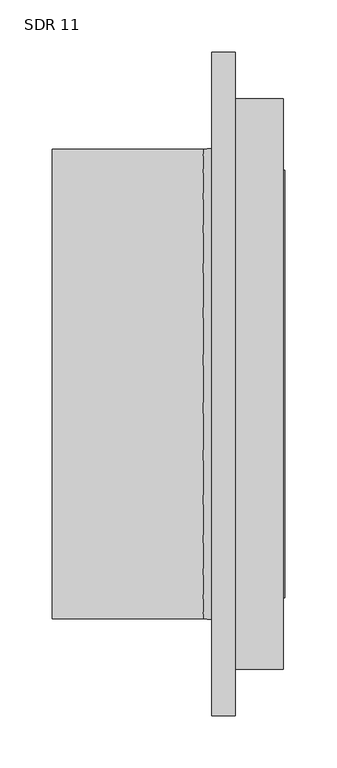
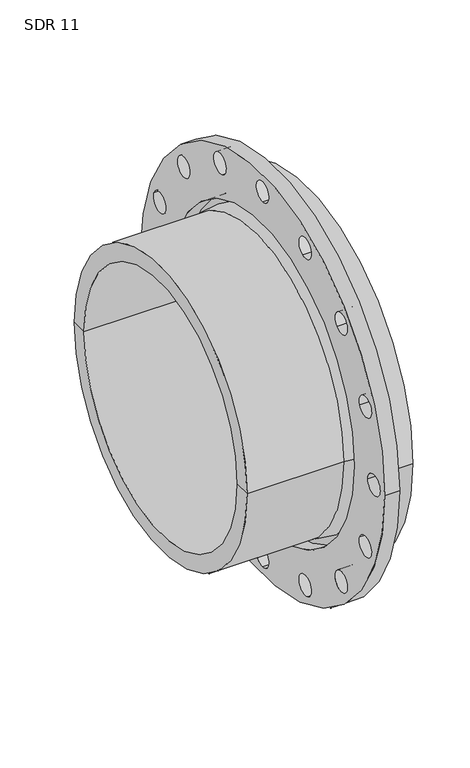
"""IFC4 building model written with IfcOpenShell, lengths in millimetres: valve geometry, Aquatherm - Flange Adapter Butt-Weld : SDR 11."""

import ifcopenshell
import ifcopenshell.guid

model = None  # the IFC model being written
_history = None  # IfcOwnerHistory: only IFC2X3 demands one
_inside = {}  # id of a spatial element -> (the spatial element, [elements in it])
_under = {}  # id of a project, library or spatial element -> (it, [spatial elements below it])
_declared = {}  # id of a project -> (the project, [libraries it declares])
_typed = {}  # id of a type object -> (the type object, [elements of that type])
_made_of = {}  # id of a material, layer set ... -> (it, [elements and type objects made of it])


def new_model(schema):
    """Start an empty IFC model of exactly this schema.

    Asked for "IFC4X3", IfcOpenShell would pick the latest addendum, in which some entities
    have other attributes; the version numbers below select the first issue.
    IFC2X3 requires an IfcOwnerHistory on every rooted entity: one is made here for all.
    """
    global model, _history
    if schema == "IFC4X3":
        model = ifcopenshell.file(schema_version=(4, 3, 0, 0))
    else:
        model = ifcopenshell.file(schema=schema)
    _inside.clear()
    _under.clear()
    _declared.clear()
    _typed.clear()
    _made_of.clear()
    _history = None
    if model.schema == "IFC2X3":
        org = make("IfcOrganization", Name="unknown")
        user = make(
            "IfcPersonAndOrganization",
            ThePerson=make("IfcPerson", FamilyName="unknown"),
            TheOrganization=org,
        )
        app = make(
            "IfcApplication",
            ApplicationDeveloper=org,
            Version="unknown",
            ApplicationFullName="unknown",
            ApplicationIdentifier="unknown",
        )
        _history = make(
            "IfcOwnerHistory",
            OwningUser=user,
            OwningApplication=app,
            ChangeAction="ADDED",
            CreationDate=0,
        )
    return model


def make(cls, **values):
    """One entity of the class cls with the attributes given. An attribute that is None is left unset."""
    return model.create_entity(
        cls, **{name: value for name, value in values.items() if value is not None}
    )


def rooted(cls, **values):
    """An entity with a GlobalId (a new one), such as an element, a storey or a relation."""
    return make(cls, GlobalId=ifcopenshell.guid.new(), OwnerHistory=_history, **values)


def si_unit(unit_type, name, prefix=None):
    """IfcSIUnit, for example si_unit("LENGTHUNIT", "METRE", prefix="MILLI")."""
    return make("IfcSIUnit", UnitType=unit_type, Prefix=prefix, Name=name)


def assignment(units):
    """IfcUnitAssignment: the units of a project."""
    return None if units is None else make("IfcUnitAssignment", Units=units)


def point(xyz):
    """IfcCartesianPoint."""
    return None if xyz is None else make("IfcCartesianPoint", Coordinates=xyz)


def direction(xyz):
    """IfcDirection."""
    return None if xyz is None else make("IfcDirection", DirectionRatios=xyz)


def frame(location, z_axis=None, x_axis=None):
    """IfcAxis2Placement3D, a coordinate frame: its origin and axes. An axis left out is left unset."""
    return make(
        "IfcAxis2Placement3D",
        Location=point(location),
        Axis=direction(z_axis),
        RefDirection=direction(x_axis),
    )


def frame_2d(location, x_axis=None):
    """IfcAxis2Placement2D, a coordinate frame in the plane: its origin and x axis."""
    return make(
        "IfcAxis2Placement2D", Location=point(location), RefDirection=direction(x_axis)
    )


def origin():
    """The frame at (0, 0, 0) with its axes left unset."""
    return frame((0.0, 0.0, 0.0))


def origin_2d():
    """The frame at (0, 0) in the plane with its x axis left unset."""
    return frame_2d((0.0, 0.0))


def place(relative_to, where):
    """IfcLocalPlacement: puts the frame where relative to a parent placement (None: the world)."""
    return make(
        "IfcLocalPlacement", PlacementRelTo=relative_to, RelativePlacement=where
    )


def context(
    kind, dimensions, precision=None, world=None, true_north=None, identifier=None
):
    """IfcGeometricRepresentationContext, for example the 3D "Model" context."""
    return make(
        "IfcGeometricRepresentationContext",
        ContextIdentifier=identifier,
        ContextType=kind,
        CoordinateSpaceDimension=dimensions,
        Precision=precision,
        WorldCoordinateSystem=world,
        TrueNorth=true_north,
    )


def project(units=None, contexts=None):
    """IfcProject with its units and contexts."""
    return rooted(
        "IfcProject",
        Name="project",
        RepresentationContexts=contexts,
        UnitsInContext=assignment(units),
    )


def spatial(cls, under=None, at=None, **own):
    """A site, building, storey or space (cls), placed at a placement, below another one or the project."""
    s = rooted(cls, ObjectPlacement=at, **own)
    if under is not None:
        _under.setdefault(under.id(), (under, []))[1].append(s)
    return s


def polyline(points):
    """IfcPolyline through the points."""
    return make("IfcPolyline", Points=[point(p) for p in points])


def circle_curve(where, radius):
    """IfcCircle in the frame where."""
    return make("IfcCircle", Position=where, Radius=radius)


def trimmed(basis, trim1, trim2, sense, master):
    """IfcTrimmedCurve: the piece of a basis curve between two trims."""
    return make(
        "IfcTrimmedCurve",
        BasisCurve=basis,
        Trim1=trim1,
        Trim2=trim2,
        SenseAgreement=sense,
        MasterRepresentation=master,
    )


def segment(curve, same_sense, transition):
    """IfcCompositeCurveSegment."""
    return make(
        "IfcCompositeCurveSegment",
        Transition=transition,
        SameSense=same_sense,
        ParentCurve=curve,
    )


def composite_curve(segments, self_intersect=None):
    """IfcCompositeCurve: segments joined end to end."""
    return make("IfcCompositeCurve", Segments=segments, SelfIntersect=self_intersect)


def outline(outer, holes=None, kind="AREA"):
    """IfcArbitraryClosedProfileDef: a profile drawn as a closed curve; with holes, ...WithVoids."""
    if holes is None:
        return make("IfcArbitraryClosedProfileDef", ProfileType=kind, OuterCurve=outer)
    return make(
        "IfcArbitraryProfileDefWithVoids",
        ProfileType=kind,
        OuterCurve=outer,
        InnerCurves=holes,
    )


def extrude(swept, where, along, depth):
    """IfcExtrudedAreaSolid: the profile swept, set in the frame where, extruded along a direction by depth."""
    return make(
        "IfcExtrudedAreaSolid",
        SweptArea=swept,
        Position=where,
        ExtrudedDirection=direction(along),
        Depth=depth,
    )


def shape(context_of_items, identifier, shape_type, items):
    """IfcShapeRepresentation: the items that make up one representation, for example the "Body"."""
    return make(
        "IfcShapeRepresentation",
        ContextOfItems=context_of_items,
        RepresentationIdentifier=identifier,
        RepresentationType=shape_type,
        Items=items,
    )


def source(mapping_origin, context_of_items, identifier, shape_type, items):
    """IfcRepresentationMap: a shape defined once, which mapped items show again and again."""
    return make(
        "IfcRepresentationMap",
        MappingOrigin=mapping_origin,
        MappedRepresentation=shape(context_of_items, identifier, shape_type, items),
    )


def transform(
    local_origin,
    x_axis=None,
    y_axis=None,
    z_axis=None,
    scale=None,
    scale2=None,
    scale3=None,
    uniform=True,
):
    """IfcCartesianTransformationOperator3D, or its non-uniform kind. x_axis, y_axis, z_axis: its Axis1, 2, 3."""
    if uniform:
        return make(
            "IfcCartesianTransformationOperator3D",
            Axis1=direction(x_axis),
            Axis2=direction(y_axis),
            LocalOrigin=point(local_origin),
            Scale=scale,
            Axis3=direction(z_axis),
        )
    return make(
        "IfcCartesianTransformationOperator3DnonUniform",
        Axis1=direction(x_axis),
        Axis2=direction(y_axis),
        LocalOrigin=point(local_origin),
        Scale=scale,
        Axis3=direction(z_axis),
        Scale2=scale2,
        Scale3=scale3,
    )


def mapped(mapping_source, mapping_target):
    """IfcMappedItem: shows the shape of a source again, moved by a transform."""
    return make(
        "IfcMappedItem", MappingSource=mapping_source, MappingTarget=mapping_target
    )


def made_of(thing, what):
    """Note that an element or type object is made of a material, layer set ...; save() writes the relation."""
    if what is not None:
        _made_of.setdefault(what.id(), (what, []))[1].append(thing)
    return thing


def element(
    cls,
    number,
    at=None,
    inside=None,
    cuts=None,
    type_object=None,
    material=None,
    context=None,
    identifier="Body",
    shape_type=None,
    held_by="IfcProductDefinitionShape",
    body=None,
    shapes=None,
    **own,
):
    """One element of the class cls, such as IfcWall. Its Tag is "e" and its number.

    at: its placement. inside: the storey or other place that contains it. cuts: it is an
    opening in that element (IfcRelVoidsElement). A single representation is given by context,
    identifier, shape_type and body (its items); several are given by shapes. held_by: the class
    of the entity that holds the representations. save() writes the other relations.
    """
    e = rooted(cls, Tag="e%d" % number, ObjectPlacement=at, **own)
    if body is not None:
        shapes = [shape(context, identifier, shape_type, body)]
    if shapes is not None:
        e.Representation = make(held_by, Representations=shapes)
    if inside is not None:
        _inside.setdefault(inside.id(), (inside, []))[1].append(e)
    if cuts is not None:
        rooted(
            "IfcRelVoidsElement", RelatingBuildingElement=cuts, RelatedOpeningElement=e
        )
    if type_object is not None:
        _typed.setdefault(type_object.id(), (type_object, []))[1].append(e)
    return made_of(e, material)


def aggregate(whole, parts):
    """IfcRelAggregates: a whole, such as a stair, and the parts it consists of."""
    return rooted("IfcRelAggregates", RelatingObject=whole, RelatedObjects=parts)


def save(model, path):
    """Write the relations noted so far, then the file.

    IfcRelAggregates (storeys below a building ...), IfcRelContainedInSpatialStructure (elements
    in a storey), IfcRelDefinesByType, IfcRelAssociatesMaterial and IfcRelDeclares: one each for
    every whole, place, type object, material and project.
    """
    for whole, parts in _under.values():
        aggregate(whole, parts)
    for where, things in _inside.values():
        rooted(
            "IfcRelContainedInSpatialStructure",
            RelatedElements=things,
            RelatingStructure=where,
        )
    for kind, things in _typed.values():
        rooted("IfcRelDefinesByType", RelatedObjects=things, RelatingType=kind)
    for what, things in _made_of.values():
        rooted("IfcRelAssociatesMaterial", RelatedObjects=things, RelatingMaterial=what)
    for by, libraries in _declared.values():
        rooted("IfcRelDeclares", RelatingContext=by, RelatedDefinitions=libraries)
    model.write(path)


def plane_surface(at):
    """IfcPlane: the flat surface through the origin of the frame at, square to its z axis."""
    return make("IfcPlane", Position=at)


def cylinder_surface(at, radius):
    """IfcCylindricalSurface: all points at the distance radius from the z axis of the frame at."""
    return make("IfcCylindricalSurface", Position=at, Radius=radius)


def revolved_surface(curve, axis_point, axis_direction):
    """IfcSurfaceOfRevolution: the curve turned about the line through axis_point along axis_direction."""
    return make(
        "IfcSurfaceOfRevolution",
        SweptCurve=make("IfcArbitraryOpenProfileDef", ProfileType="CURVE", Curve=curve),
        AxisPosition=make("IfcAxis1Placement", Location=point(axis_point), Axis=direction(axis_direction)),
    )


def advanced_brep(points, edges, surfaces, faces):
    """IfcAdvancedBrep: a solid bounded by faces that lie on surfaces and meet in shared edges.

    An edge is (start, end): straight between two places in points (the first is 0);
    or (start, end, curve); or (start, end, curve, False) where it runs against its curve.
    A face is (place in surfaces, loops), or (place, loops, False) where it looks against
    its surface's normal. A loop lists edges by number (the first is 1), with a minus sign
    where the edge is run from its end to its start. The first loop is the outer one.
    """
    corners = [point(p) for p in points]
    vertices = [make("IfcVertexPoint", VertexGeometry=c) for c in corners]
    made = []
    for start, end, *more in edges:
        made.append(
            make(
                "IfcEdgeCurve",
                EdgeStart=vertices[start],
                EdgeEnd=vertices[end],
                EdgeGeometry=more[0] if more else make("IfcPolyline", Points=[corners[start], corners[end]]),
                SameSense=more[1] if len(more) > 1 else True,
            )
        )
    hull = []
    for where, loops, *sense in faces:
        bounds = []
        for j, loop in enumerate(loops):
            ring = [make("IfcOrientedEdge", EdgeElement=made[abs(k) - 1], Orientation=k > 0) for k in loop]
            bounds.append(
                make(
                    "IfcFaceOuterBound" if j == 0 else "IfcFaceBound",
                    Bound=make("IfcEdgeLoop", EdgeList=ring),
                    Orientation=True,
                )
            )
        hull.append(make("IfcAdvancedFace", Bounds=bounds, FaceSurface=surfaces[where], SameSense=sense[0] if sense else True))
    return make("IfcAdvancedBrep", Outer=make("IfcClosedShell", CfsFaces=hull))


def sdr_11_7e2fc823(model_context):
    return source(origin(), model_context, "Body", "SolidModel", [
        extrude(outline(composite_curve([segment(trimmed(circle_curve(origin_2d(), 317.5), [point((-317.5, 0.0))], [point((317.5, 0.0))], False, "CARTESIAN"), True, "CONTINUOUS"), segment(trimmed(circle_curve(origin_2d(), 317.5), [point((317.5, 0.0))], [point((-317.5, 0.0))], False, "CARTESIAN"), True, "CONTINUOUS")], self_intersect=False), holes=[composite_curve([segment(trimmed(circle_curve(origin_2d(), 238.76), [point((-238.76, 0.0))], [point((238.76, 0.0))], True, "CARTESIAN"), True, "CONTINUOUS"), segment(trimmed(circle_curve(origin_2d(), 238.76), [point((238.76, 0.0))], [point((-238.76, 0.0))], True, "CARTESIAN"), True, "CONTINUOUS")], self_intersect=False), composite_curve([segment(trimmed(circle_curve(frame_2d((289.56, 0.0)), 15.875), [point((273.685, 0.0))], [point((305.435, 0.0))], True, "CARTESIAN"), True, "CONTINUOUS"), segment(trimmed(circle_curve(frame_2d((289.56, 0.0)), 15.875), [point((305.435, 0.0))], [point((273.685, 0.0))], True, "CARTESIAN"), True, "CONTINUOUS")], self_intersect=False), composite_curve([segment(trimmed(circle_curve(frame_2d((267.5185574, -110.8098147)), 15.875), [point((252.8519699, -104.7347152))], [point((282.185145, -116.8849142))], True, "CARTESIAN"), True, "CONTINUOUS"), segment(trimmed(circle_curve(frame_2d((267.5185574, -110.8098147)), 15.875), [point((282.185145, -116.8849142))], [point((252.8519699, -104.7347152))], True, "CARTESIAN"), True, "CONTINUOUS")], self_intersect=False), composite_curve([segment(trimmed(circle_curve(frame_2d((267.5185574, 110.8098147)), 15.875), [point((252.8519699, 104.7347152))], [point((282.185145, 116.8849142))], True, "CARTESIAN"), True, "CONTINUOUS"), segment(trimmed(circle_curve(frame_2d((267.5185574, 110.8098147)), 15.875), [point((282.185145, 116.8849142))], [point((252.8519699, 104.7347152))], True, "CARTESIAN"), True, "CONTINUOUS")], self_intersect=False), composite_curve([segment(trimmed(circle_curve(frame_2d((204.7498396, 204.7498396)), 15.875), [point((193.5245194, 193.5245194))], [point((215.9751597, 215.9751597))], True, "CARTESIAN"), True, "CONTINUOUS"), segment(trimmed(circle_curve(frame_2d((204.7498396, 204.7498396)), 15.875), [point((215.9751597, 215.9751597))], [point((193.5245194, 193.5245194))], True, "CARTESIAN"), True, "CONTINUOUS")], self_intersect=False), composite_curve([segment(trimmed(circle_curve(frame_2d((110.8098147, 267.5185574)), 15.875), [point((104.7347152, 252.8519699))], [point((116.8849142, 282.185145))], True, "CARTESIAN"), True, "CONTINUOUS"), segment(trimmed(circle_curve(frame_2d((110.8098147, 267.5185574)), 15.875), [point((116.8849142, 282.185145))], [point((104.7347152, 252.8519699))], True, "CARTESIAN"), True, "CONTINUOUS")], self_intersect=False), composite_curve([segment(trimmed(circle_curve(frame_2d((0.0, 289.56)), 15.875), [point((0.0, 273.685))], [point((0.0, 305.435))], True, "CARTESIAN"), True, "CONTINUOUS"), segment(trimmed(circle_curve(frame_2d((0.0, 289.56)), 15.875), [point((0.0, 305.435))], [point((0.0, 273.685))], True, "CARTESIAN"), True, "CONTINUOUS")], self_intersect=False), composite_curve([segment(trimmed(circle_curve(frame_2d((-110.8098147, 267.5185574)), 15.875), [point((-104.7347152, 252.8519699))], [point((-116.8849142, 282.185145))], True, "CARTESIAN"), True, "CONTINUOUS"), segment(trimmed(circle_curve(frame_2d((-110.8098147, 267.5185574)), 15.875), [point((-116.8849142, 282.185145))], [point((-104.7347152, 252.8519699))], True, "CARTESIAN"), True, "CONTINUOUS")], self_intersect=False), composite_curve([segment(trimmed(circle_curve(frame_2d((-204.7498396, 204.7498396)), 15.875), [point((-193.5245194, 193.5245194))], [point((-215.9751597, 215.9751597))], True, "CARTESIAN"), True, "CONTINUOUS"), segment(trimmed(circle_curve(frame_2d((-204.7498396, 204.7498396)), 15.875), [point((-215.9751597, 215.9751597))], [point((-193.5245194, 193.5245194))], True, "CARTESIAN"), True, "CONTINUOUS")], self_intersect=False), composite_curve([segment(trimmed(circle_curve(frame_2d((-267.5185574, 110.8098147)), 15.875), [point((-252.8519699, 104.7347152))], [point((-282.185145, 116.8849142))], True, "CARTESIAN"), True, "CONTINUOUS"), segment(trimmed(circle_curve(frame_2d((-267.5185574, 110.8098147)), 15.875), [point((-282.185145, 116.8849142))], [point((-252.8519699, 104.7347152))], True, "CARTESIAN"), True, "CONTINUOUS")], self_intersect=False), composite_curve([segment(trimmed(circle_curve(frame_2d((-289.56, 0.0)), 15.875), [point((-273.685, 0.0))], [point((-305.435, 0.0))], True, "CARTESIAN"), True, "CONTINUOUS"), segment(trimmed(circle_curve(frame_2d((-289.56, 0.0)), 15.875), [point((-305.435, 0.0))], [point((-273.685, 0.0))], True, "CARTESIAN"), True, "CONTINUOUS")], self_intersect=False), composite_curve([segment(trimmed(circle_curve(frame_2d((-267.5185574, -110.8098147)), 15.875), [point((-252.8519699, -104.7347152))], [point((-282.185145, -116.8849142))], True, "CARTESIAN"), True, "CONTINUOUS"), segment(trimmed(circle_curve(frame_2d((-267.5185574, -110.8098147)), 15.875), [point((-282.185145, -116.8849142))], [point((-252.8519699, -104.7347152))], True, "CARTESIAN"), True, "CONTINUOUS")], self_intersect=False), composite_curve([segment(trimmed(circle_curve(frame_2d((-204.7498396, -204.7498396)), 15.875), [point((-193.5245194, -193.5245194))], [point((-215.9751597, -215.9751597))], True, "CARTESIAN"), True, "CONTINUOUS"), segment(trimmed(circle_curve(frame_2d((-204.7498396, -204.7498396)), 15.875), [point((-215.9751597, -215.9751597))], [point((-193.5245194, -193.5245194))], True, "CARTESIAN"), True, "CONTINUOUS")], self_intersect=False), composite_curve([segment(trimmed(circle_curve(frame_2d((-110.8098147, -267.5185574)), 15.875), [point((-104.7347152, -252.8519699))], [point((-116.8849142, -282.185145))], True, "CARTESIAN"), True, "CONTINUOUS"), segment(trimmed(circle_curve(frame_2d((-110.8098147, -267.5185574)), 15.875), [point((-116.8849142, -282.185145))], [point((-104.7347152, -252.8519699))], True, "CARTESIAN"), True, "CONTINUOUS")], self_intersect=False), composite_curve([segment(trimmed(circle_curve(frame_2d((0.0, -289.56)), 15.875), [point((0.0, -273.685))], [point((0.0, -305.435))], True, "CARTESIAN"), True, "CONTINUOUS"), segment(trimmed(circle_curve(frame_2d((0.0, -289.56)), 15.875), [point((0.0, -305.435))], [point((0.0, -273.685))], True, "CARTESIAN"), True, "CONTINUOUS")], self_intersect=False), composite_curve([segment(trimmed(circle_curve(frame_2d((110.8098147, -267.5185574)), 15.875), [point((104.7347152, -252.8519699))], [point((116.8849142, -282.185145))], True, "CARTESIAN"), True, "CONTINUOUS"), segment(trimmed(circle_curve(frame_2d((110.8098147, -267.5185574)), 15.875), [point((116.8849142, -282.185145))], [point((104.7347152, -252.8519699))], True, "CARTESIAN"), True, "CONTINUOUS")], self_intersect=False), composite_curve([segment(trimmed(circle_curve(frame_2d((204.7498396, -204.7498396)), 15.875), [point((193.5245194, -193.5245194))], [point((215.9751597, -215.9751597))], True, "CARTESIAN"), True, "CONTINUOUS"), segment(trimmed(circle_curve(frame_2d((204.7498396, -204.7498396)), 15.875), [point((215.9751597, -215.9751597))], [point((193.5245194, -193.5245194))], True, "CARTESIAN"), True, "CONTINUOUS")], self_intersect=False)]), frame((-22.352, 0.0, 0.0), z_axis=(1.0, 0.0, 0.0), x_axis=(0.0, 1.0, 0.0)), (0.0, 0.0, 1.0), 22.352),
        advanced_brep(
        [(45.72, 273.05, 0.0), (45.72, -273.05, 0.0), (0.0, -273.05, 0.0), (0.0, 273.05, 0.0), (47.3075, 199.39, 0.0), (47.3075, -199.39, 0.0), (47.3075, -204.47, 0.0), (47.3075, 204.47, 0.0), (-175.26, 199.39, 0.0), (-175.26, -199.39, 0.0), (-175.26, 224.79, 0.0), (-175.26, -224.79, 0.0), (-30.48, 224.79, 0.0), (-30.48, -224.79, 0.0), (0.0, -228.6, 0.0), (0.0, 228.6, 0.0), (45.72, 204.47, 0.0), (45.72, -204.47, 0.0)],
        [
            (0, 1, circle_curve(frame((45.72, 0.0, 0.0), z_axis=(-1.0, 0.0, 0.0), x_axis=(0.0, -1.0, 0.0)), 273.05)),
            (1, 2),
            (2, 3, circle_curve(frame((0.0, 0.0, 0.0), z_axis=(1.0, 0.0, 0.0), x_axis=(0.0, -1.0, 0.0)), 273.05)),
            (3, 0),
            (1, 0, circle_curve(frame((45.72, 0.0, 0.0), z_axis=(-1.0, 0.0, 0.0), x_axis=(0.0, -1.0, 0.0)), 273.05)),
            (3, 2, circle_curve(frame((0.0, 0.0, 0.0), z_axis=(1.0, 0.0, 0.0), x_axis=(0.0, -1.0, 0.0)), 273.05)),
            (4, 5, circle_curve(frame((47.3075, 0.0, 0.0), z_axis=(-1.0, 0.0, 0.0), x_axis=(0.0, -1.0, 0.0)), 199.39)),
            (5, 6),
            (6, 7, circle_curve(frame((47.3075, 0.0, 0.0), z_axis=(1.0, 0.0, 0.0), x_axis=(0.0, -1.0, 0.0)), 204.47)),
            (7, 4),
            (5, 4, circle_curve(frame((47.3075, 0.0, 0.0), z_axis=(-1.0, 0.0, 0.0), x_axis=(0.0, -1.0, 0.0)), 199.39)),
            (7, 6, circle_curve(frame((47.3075, 0.0, 0.0), z_axis=(1.0, 0.0, 0.0), x_axis=(0.0, -1.0, 0.0)), 204.47)),
            (8, 9, circle_curve(frame((-175.26, 0.0, 0.0), z_axis=(-1.0, 0.0, 0.0), x_axis=(0.0, -1.0, 0.0)), 199.39)),
            (9, 5),
            (4, 8),
            (9, 8, circle_curve(frame((-175.26, 0.0, 0.0), z_axis=(-1.0, 0.0, 0.0), x_axis=(0.0, -1.0, 0.0)), 199.39)),
            (10, 11, circle_curve(frame((-175.26, 0.0, 0.0), z_axis=(-1.0, 0.0, 0.0), x_axis=(0.0, -1.0, 0.0)), 224.79)),
            (11, 9),
            (8, 10),
            (11, 10, circle_curve(frame((-175.26, 0.0, 0.0), z_axis=(-1.0, 0.0, 0.0), x_axis=(0.0, -1.0, 0.0)), 224.79)),
            (12, 13, circle_curve(frame((-30.48, 0.0, 0.0), z_axis=(-1.0, 0.0, 0.0), x_axis=(0.0, -1.0, 0.0)), 224.79)),
            (13, 11),
            (10, 12),
            (13, 12, circle_curve(frame((-30.48, 0.0, 0.0), z_axis=(-1.0, 0.0, 0.0), x_axis=(0.0, -1.0, 0.0)), 224.79)),
            (2, 14),
            (14, 15, circle_curve(frame((0.0, 0.0, 0.0), z_axis=(1.0, 0.0, 0.0), x_axis=(0.0, -1.0, 0.0)), 228.6)),
            (15, 3),
            (15, 14, circle_curve(frame((0.0, 0.0, 0.0), z_axis=(1.0, 0.0, 0.0), x_axis=(0.0, -1.0, 0.0)), 228.6)),
            (16, 17, circle_curve(frame((45.72, 0.0, 0.0), z_axis=(-1.0, 0.0, 0.0), x_axis=(0.0, -1.0, 0.0)), 204.47)),
            (17, 1),
            (0, 16),
            (17, 16, circle_curve(frame((45.72, 0.0, 0.0), z_axis=(-1.0, 0.0, 0.0), x_axis=(0.0, -1.0, 0.0)), 204.47)),
            (6, 17),
            (16, 7),
            (14, 13),
            (12, 15),
        ],
        [
            cylinder_surface(frame((1486.3589321, 0.0, 0.0), z_axis=(1.0, 0.0, 0.0), x_axis=(0.0, -1.0, 0.0)), 273.05),
            plane_surface(frame((47.3075, 0.0, 0.0), z_axis=(1.0, 0.0, 0.0), x_axis=(0.0, -1.0, 0.0))),
            revolved_surface(polyline([(47.30749999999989, -199.39, 0.0), (-175.26, -199.39, 0.0)]), (1486.3589321, 0.0, 0.0), (1.0, 0.0, 0.0)),
            plane_surface(frame((-175.26, 0.0, 0.0), z_axis=(-1.0, 0.0, 0.0), x_axis=(0.0, -1.0, 0.0))),
            cylinder_surface(frame((1486.3589321, 0.0, 0.0), z_axis=(1.0, 0.0, 0.0), x_axis=(0.0, -1.0, 0.0)), 224.79),
            plane_surface(frame((0.0, 0.0, 0.0), z_axis=(-1.0, 0.0, 0.0), x_axis=(0.0, -1.0, 0.0))),
            plane_surface(frame((45.72, 0.0, 0.0), z_axis=(1.0, 0.0, 0.0), x_axis=(0.0, -1.0, 0.0))),
            cylinder_surface(frame((1486.3589321, 0.0, 0.0), z_axis=(1.0, 0.0, 0.0), x_axis=(0.0, -1.0, 0.0)), 204.47),
            revolved_surface(polyline([(-30.48, -224.79, 0.0), (0.0, -228.6, 0.0)]), (1486.3589321, 0.0, 0.0), (1.0, 0.0, 0.0)),
        ],
        [
            (0, [[1, 2, 3, 4]]),
            (0, [[5, -4, 6, -2]]),
            (1, [[7, 8, 9, 10]]),
            (1, [[11, -10, 12, -8]]),
            (2, [[13, 14, -7, 15]]),
            (2, [[16, -15, -11, -14]]),
            (3, [[17, 18, -13, 19]]),
            (3, [[20, -19, -16, -18]]),
            (4, [[21, 22, -17, 23]]),
            (4, [[24, -23, -20, -22]]),
            (5, [[-3, 25, 26, 27]]),
            (5, [[-6, -27, 28, -25]]),
            (6, [[29, 30, -1, 31]]),
            (6, [[32, -31, -5, -30]]),
            (7, [[-9, 33, -29, 34]]),
            (7, [[-12, -34, -32, -33]]),
            (8, [[-26, 35, -21, 36]]),
            (8, [[-28, -36, -24, -35]]),
        ],
    ),
    ])


if __name__ == "__main__":
    model = new_model("IFC4")
    model_context = context("Model", 3, world=origin())
    ifc_project = project(units=[si_unit("LENGTHUNIT", "METRE", prefix="MILLI")], contexts=[model_context])
    site = spatial("IfcSite", under=ifc_project)
    building = spatial("IfcBuilding", under=site)
    placement = place(None, origin())
    sdr_11_shape = sdr_11_7e2fc823(model_context)
    element("IfcValve", 1, ObjectType="Aquatherm - Flange Adapter Butt-Weld : SDR 11", at=placement, inside=building, context=model_context, shape_type="MappedRepresentation", body=[
        mapped(sdr_11_shape, transform((0.0, 0.0, 0.0), x_axis=(1.0, 0.0, 0.0), y_axis=(0.0, 1.0, 0.0), z_axis=(0.0, 0.0, 1.0))),
    ])
    save(model, "model.ifc")
